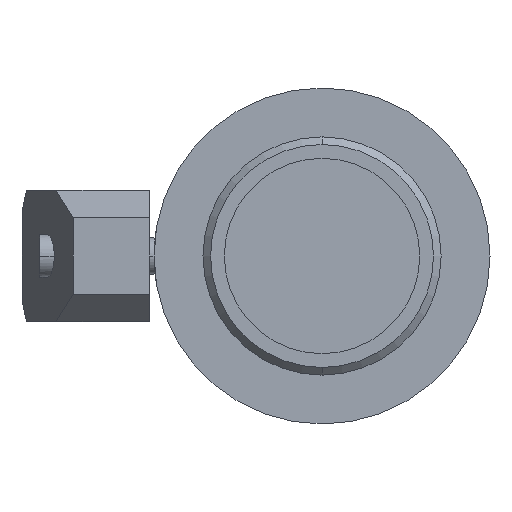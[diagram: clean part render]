
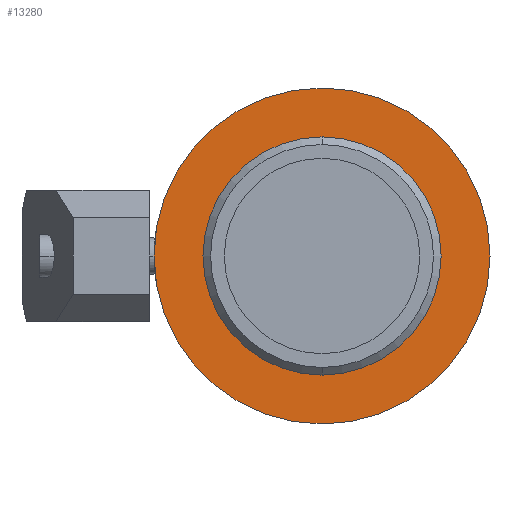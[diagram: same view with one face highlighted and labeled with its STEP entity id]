
A CAD part, left-side view. The second image highlights one B-rep face of the part: STEP entity #13280.
In plain terms, the highlighted planar face has unit normal (-1, 0, 0).
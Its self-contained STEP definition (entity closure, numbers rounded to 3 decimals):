
#7550=CARTESIAN_POINT('',(62.018,81.765,0.));
#7560=VERTEX_POINT('',#7550);
#7660=CARTESIAN_POINT('',(62.018,6.765,0.));
#7670=VERTEX_POINT('',#7660);
#7700=CARTESIAN_POINT('',(62.018,44.265,0.));
#7710=DIRECTION('',(-1.,0.,0.));
#7720=DIRECTION('',(0.,1.,0.));
#7730=AXIS2_PLACEMENT_3D('',#7700,#7710,#7720);
#7740=CIRCLE('',#7730,37.5);
#7750=EDGE_CURVE('',#7560,#7670,#7740,.T.);
#8310=CARTESIAN_POINT('',(62.018,-10.735,0.));
#8320=VERTEX_POINT('',#8310);
#8370=CARTESIAN_POINT('',(62.018,44.265,0.));
#8380=DIRECTION('',(1.,0.,0.));
#8390=DIRECTION('',(0.,-1.,0.));
#8400=AXIS2_PLACEMENT_3D('',#8370,#8380,#8390);
#8410=CIRCLE('',#8400,55.);
#8420=CARTESIAN_POINT('',(62.018,99.265,0.));
#8430=VERTEX_POINT('',#8420);
#8440=EDGE_CURVE('',#8430,#8320,#8410,.T.);
#13130=CARTESIAN_POINT('',(62.018,90.515,0.));
#13140=DIRECTION('',(1.,0.,0.));
#13150=DIRECTION('',(0.,-1.,0.));
#13160=AXIS2_PLACEMENT_3D('',#13130,#13140,#13150);
#13170=PLANE('',#13160);
#13180=ORIENTED_EDGE('',*,*,#8440,.F.);
#13190=EDGE_CURVE('',#8320,#8430,#8410,.T.);
#13200=ORIENTED_EDGE('',*,*,#13190,.F.);
#13210=EDGE_LOOP('',(#13200,#13180));
#13220=FACE_OUTER_BOUND('',#13210,.T.);
#13230=EDGE_CURVE('',#7670,#7560,#7740,.T.);
#13240=ORIENTED_EDGE('',*,*,#13230,.F.);
#13250=ORIENTED_EDGE('',*,*,#7750,.F.);
#13260=EDGE_LOOP('',(#13250,#13240));
#13270=FACE_BOUND('',#13260,.T.);
#13280=ADVANCED_FACE('',(#13220,#13270),#13170,.F.);
